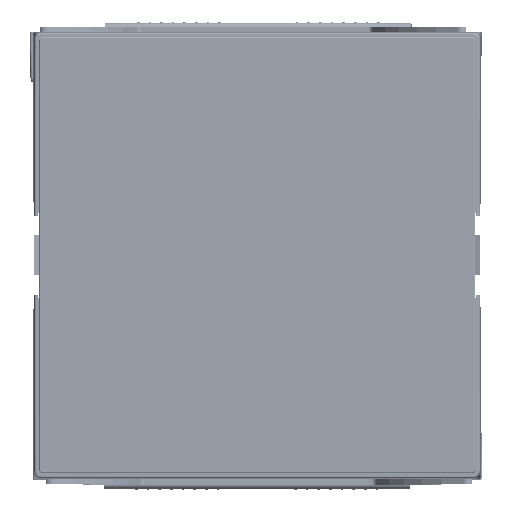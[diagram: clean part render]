
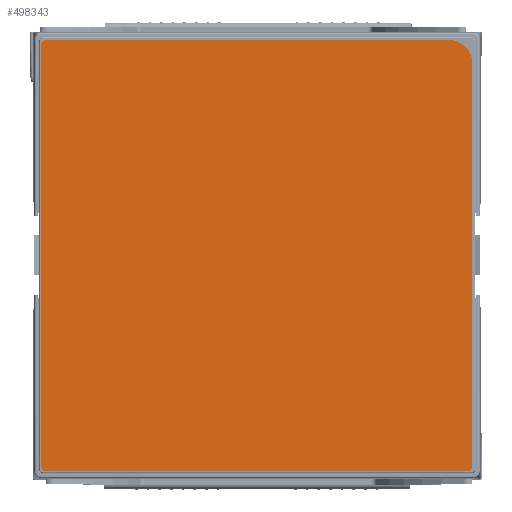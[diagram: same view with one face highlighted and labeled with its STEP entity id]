
A CAD part, top view. The second image highlights one B-rep face of the part: STEP entity #498343.
In plain terms, the highlighted planar face has unit normal (0, 0, 1).
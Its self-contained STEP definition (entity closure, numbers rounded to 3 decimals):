
#497818=CARTESIAN_POINT('',(87.3,87.2,0.821));
#497819=DIRECTION('',(0.,0.,-1.));
#497820=DIRECTION('',(0.,1.,0.));
#497821=AXIS2_PLACEMENT_3D('',#497818,#497819,#497820);
#497823=DIRECTION('',(0.,-1.,0.));
#497824=VECTOR('',#497823,86.5);
#497825=CARTESIAN_POINT('',(92.3,87.2,0.821));
#497826=LINE('',#497825,#497824);
#497827=CARTESIAN_POINT('',(91.3,0.7,0.821));
#497828=DIRECTION('',(0.,0.,-1.));
#497829=DIRECTION('',(1.,0.,0.));
#497830=AXIS2_PLACEMENT_3D('',#497827,#497828,#497829);
#497832=DIRECTION('',(-1.,0.,0.));
#497833=VECTOR('',#497832,90.5);
#497834=CARTESIAN_POINT('',(91.3,-0.3,0.821));
#497835=LINE('',#497834,#497833);
#497836=CARTESIAN_POINT('',(0.8,0.7,
0.821));
#497837=DIRECTION('',(0.,0.,-1.));
#497838=DIRECTION('',(0.,-1.,0.));
#497839=AXIS2_PLACEMENT_3D('',#497836,#497837,#497838);
#497841=DIRECTION('',(0.,1.,0.));
#497842=VECTOR('',#497841,90.5);
#497843=CARTESIAN_POINT('',(-0.2,0.7,
0.821));
#497844=LINE('',#497843,#497842);
#497845=CARTESIAN_POINT('',(0.8,91.2,0.821));
#497846=DIRECTION('',(0.,0.,-1.));
#497847=DIRECTION('',(-1.,0.,0.));
#497848=AXIS2_PLACEMENT_3D('',#497845,#497846,#497847);
#497850=DIRECTION('',(1.,0.,0.));
#497851=VECTOR('',#497850,86.5);
#497852=CARTESIAN_POINT('',(0.8,92.2,0.821));
#497853=LINE('',#497852,#497851);
#497902=CARTESIAN_POINT('',(87.3,92.2,0.821));
#497903=CARTESIAN_POINT('',(92.3,87.2,0.821));
#497904=VERTEX_POINT('',#497902);
#497905=VERTEX_POINT('',#497903);
#497906=CARTESIAN_POINT('',(92.3,0.7,0.821));
#497907=VERTEX_POINT('',#497906);
#497908=CARTESIAN_POINT('',(91.3,-0.3,0.821));
#497909=VERTEX_POINT('',#497908);
#497910=CARTESIAN_POINT('',(0.8,-0.3,
0.821));
#497911=VERTEX_POINT('',#497910);
#497912=CARTESIAN_POINT('',(-0.2,0.7,
0.821));
#497913=VERTEX_POINT('',#497912);
#497914=CARTESIAN_POINT('',(-0.2,91.2,0.821));
#497915=VERTEX_POINT('',#497914);
#497916=CARTESIAN_POINT('',(0.8,92.2,0.821));
#497917=VERTEX_POINT('',#497916);
#498328=CARTESIAN_POINT('',(46.05,45.95,0.821));
#498329=DIRECTION('',(0.,0.,1.));
#498330=DIRECTION('',(-1.,0.,0.));
#498331=AXIS2_PLACEMENT_3D('',#498328,#498329,#498330);
#498332=PLANE('',#498331);
#498333=ORIENTED_EDGE('',*,*,#498224,.T.);
#498334=ORIENTED_EDGE('',*,*,#498239,.T.);
#498335=ORIENTED_EDGE('',*,*,#498253,.T.);
#498336=ORIENTED_EDGE('',*,*,#498267,.T.);
#498337=ORIENTED_EDGE('',*,*,#498281,.T.);
#498338=ORIENTED_EDGE('',*,*,#498295,.T.);
#498339=ORIENTED_EDGE('',*,*,#498309,.T.);
#498340=ORIENTED_EDGE('',*,*,#498322,.T.);
#498341=EDGE_LOOP('',(#498333,#498334,#498335,#498336,#498337,#498338,#498339,
#498340));
#498342=FACE_OUTER_BOUND('',#498341,.F.);
#498343=ADVANCED_FACE('',(#498342),#498332,.T.);
#497822=CIRCLE('',#497821,5.);
#497831=CIRCLE('',#497830,1.);
#497840=CIRCLE('',#497839,1.);
#497849=CIRCLE('',#497848,1.);
#498224=EDGE_CURVE('',#497904,#497905,#497822,.T.);
#498239=EDGE_CURVE('',#497905,#497907,#497826,.T.);
#498253=EDGE_CURVE('',#497907,#497909,#497831,.T.);
#498267=EDGE_CURVE('',#497909,#497911,#497835,.T.);
#498281=EDGE_CURVE('',#497911,#497913,#497840,.T.);
#498295=EDGE_CURVE('',#497913,#497915,#497844,.T.);
#498309=EDGE_CURVE('',#497915,#497917,#497849,.T.);
#498322=EDGE_CURVE('',#497917,#497904,#497853,.T.);
